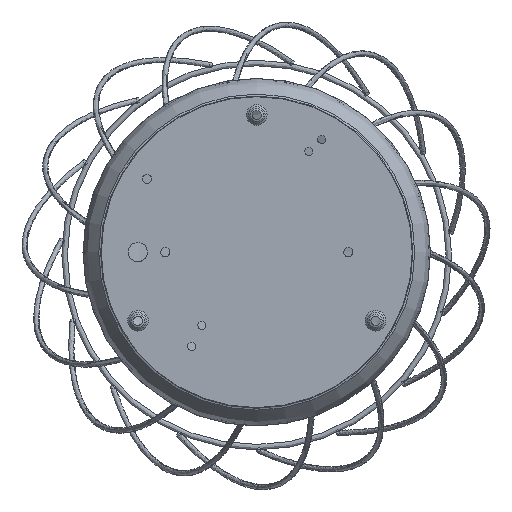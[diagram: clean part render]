
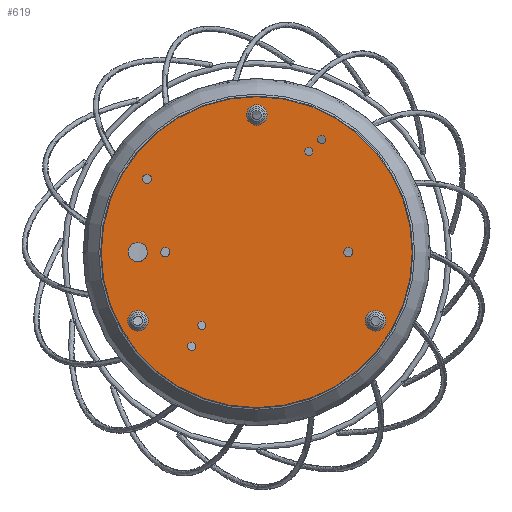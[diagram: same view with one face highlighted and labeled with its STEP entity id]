
A CAD part, top view. The second image highlights one B-rep face of the part: STEP entity #619.
In plain terms, the highlighted planar face has unit normal (0, 0, 1).
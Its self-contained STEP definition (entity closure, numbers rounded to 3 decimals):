
#619 = ADVANCED_FACE( '', ( #1092, #1093, #1094, #1095, #1096, #1097, #1098, #1099, #1100, #1101, #1102, #1103 ), #1104, .F. );
#1092 = FACE_BOUND( '', #1534, .T. );
#1093 = FACE_BOUND( '', #1535, .T. );
#1094 = FACE_BOUND( '', #1536, .T. );
#1095 = FACE_BOUND( '', #1537, .T. );
#1096 = FACE_BOUND( '', #1538, .T. );
#1097 = FACE_BOUND( '', #1539, .T. );
#1098 = FACE_BOUND( '', #1540, .T. );
#1099 = FACE_BOUND( '', #1541, .T. );
#1100 = FACE_BOUND( '', #1542, .T. );
#1101 = FACE_BOUND( '', #1543, .T. );
#1102 = FACE_OUTER_BOUND( '', #1544, .T. );
#1103 = FACE_BOUND( '', #1545, .T. );
#1104 = PLANE( '', #1546 );
#1534 = EDGE_LOOP( '', ( #3364 ) );
#1535 = EDGE_LOOP( '', ( #3365 ) );
#1536 = EDGE_LOOP( '', ( #3366 ) );
#1537 = EDGE_LOOP( '', ( #3367 ) );
#1538 = EDGE_LOOP( '', ( #3368 ) );
#1539 = EDGE_LOOP( '', ( #3369 ) );
#1540 = EDGE_LOOP( '', ( #3370 ) );
#1541 = EDGE_LOOP( '', ( #3371 ) );
#1542 = EDGE_LOOP( '', ( #3372 ) );
#1543 = EDGE_LOOP( '', ( #3373 ) );
#1544 = EDGE_LOOP( '', ( #3374 ) );
#1545 = EDGE_LOOP( '', ( #3375 ) );
#1546 = AXIS2_PLACEMENT_3D( '', #3376, #3377, #3378 );
#3364 = ORIENTED_EDGE( '', *, *, #3684, .T. );
#3365 = ORIENTED_EDGE( '', *, *, #3743, .T. );
#3366 = ORIENTED_EDGE( '', *, *, #3744, .F. );
#3367 = ORIENTED_EDGE( '', *, *, #3649, .T. );
#3368 = ORIENTED_EDGE( '', *, *, #3745, .T. );
#3369 = ORIENTED_EDGE( '', *, *, #3746, .T. );
#3370 = ORIENTED_EDGE( '', *, *, #3706, .T. );
#3371 = ORIENTED_EDGE( '', *, *, #3747, .T. );
#3372 = ORIENTED_EDGE( '', *, *, #3748, .F. );
#3373 = ORIENTED_EDGE( '', *, *, #3682, .F. );
#3374 = ORIENTED_EDGE( '', *, *, #3749, .F. );
#3375 = ORIENTED_EDGE( '', *, *, #3610, .F. );
#3376 = CARTESIAN_POINT( '', ( -85., 0., 27. ) );
#3377 = DIRECTION( '', ( 0., 0., -1. ) );
#3378 = DIRECTION( '', ( -1., 0., 0. ) );
#3610 = EDGE_CURVE( '', #3809, #3809, #3810, .F. );
#3649 = EDGE_CURVE( '', #3872, #3872, #3873, .T. );
#3682 = EDGE_CURVE( '', #3923, #3923, #3924, .F. );
#3684 = EDGE_CURVE( '', #3926, #3926, #3927, .T. );
#3706 = EDGE_CURVE( '', #3963, #3963, #3964, .T. );
#3743 = EDGE_CURVE( '', #4016, #4016, #4017, .T. );
#3744 = EDGE_CURVE( '', #4018, #4018, #4019, .T. );
#3745 = EDGE_CURVE( '', #4020, #4020, #4021, .T. );
#3746 = EDGE_CURVE( '', #4022, #4022, #4023, .T. );
#3747 = EDGE_CURVE( '', #4024, #4024, #4025, .T. );
#3748 = EDGE_CURVE( '', #4026, #4026, #4027, .F. );
#3749 = EDGE_CURVE( '', #4028, #4028, #4029, .T. );
#3809 = VERTEX_POINT( '', #4099 );
#3810 = CIRCLE( '', #4100, 5.621 );
#3872 = VERTEX_POINT( '', #4162 );
#3873 = CIRCLE( '', #4163, 2.5 );
#3923 = VERTEX_POINT( '', #4213 );
#3924 = CIRCLE( '', #4214, 5.621 );
#3926 = VERTEX_POINT( '', #4216 );
#3927 = CIRCLE( '', #4217, 2.5 );
#3963 = VERTEX_POINT( '', #4253 );
#3964 = CIRCLE( '', #4254, 2.25 );
#4016 = VERTEX_POINT( '', #4363 );
#4017 = CIRCLE( '', #4364, 5.25 );
#4018 = VERTEX_POINT( '', #4365 );
#4019 = CIRCLE( '', #4366, 2.5 );
#4020 = VERTEX_POINT( '', #4367 );
#4021 = CIRCLE( '', #4368, 2.25 );
#4022 = VERTEX_POINT( '', #4369 );
#4023 = CIRCLE( '', #4370, 2.25 );
#4024 = VERTEX_POINT( '', #4371 );
#4025 = CIRCLE( '', #4372, 2.25 );
#4026 = VERTEX_POINT( '', #4373 );
#4027 = CIRCLE( '', #4374, 5.621 );
#4028 = VERTEX_POINT( '', #4375 );
#4029 = CIRCLE( '', #4376, 85. );
#4099 = CARTESIAN_POINT( '', ( -80.621, 0., 27. ) );
#4100 = AXIS2_PLACEMENT_3D( '', #4447, #4448, #4449 );
#4162 = CARTESIAN_POINT( '', ( -2.5, 50., 27. ) );
#4163 = AXIS2_PLACEMENT_3D( '', #4519, #4520, #4521 );
#4213 = CARTESIAN_POINT( '', ( 40.311, -69.82, 27. ) );
#4214 = AXIS2_PLACEMENT_3D( '', #4573, #4574, #4575 );
#4216 = CARTESIAN_POINT( '', ( -42.5, -60., 27. ) );
#4217 = AXIS2_PLACEMENT_3D( '', #4576, #4577, #4578 );
#4253 = CARTESIAN_POINT( '', ( -63.75, 35.5, 27. ) );
#4254 = AXIS2_PLACEMENT_3D( '', #4624, #4625, #4626 );
#4363 = CARTESIAN_POINT( '', ( -5.25, -65., 27. ) );
#4364 = AXIS2_PLACEMENT_3D( '', #4675, #4676, #4677 );
#4365 = CARTESIAN_POINT( '', ( -2.5, -50., 27. ) );
#4366 = AXIS2_PLACEMENT_3D( '', #4678, #4679, #4680 );
#4367 = CARTESIAN_POINT( '', ( 37.75, -30., 27. ) );
#4368 = AXIS2_PLACEMENT_3D( '', #4681, #4682, #4683 );
#4369 = CARTESIAN_POINT( '', ( -57.25, 28.5, 27. ) );
#4370 = AXIS2_PLACEMENT_3D( '', #4684, #4685, #4686 );
#4371 = CARTESIAN_POINT( '', ( 49.25, -35.5, 27. ) );
#4372 = AXIS2_PLACEMENT_3D( '', #4687, #4688, #4689 );
#4373 = CARTESIAN_POINT( '', ( 40.311, 69.82, 27. ) );
#4374 = AXIS2_PLACEMENT_3D( '', #4690, #4691, #4692 );
#4375 = CARTESIAN_POINT( '', ( -85., 0., 27. ) );
#4376 = AXIS2_PLACEMENT_3D( '', #4693, #4694, #4695 );
#4447 = CARTESIAN_POINT( '', ( -75., 0., 27. ) );
#4448 = DIRECTION( '', ( 0., 0., -1. ) );
#4449 = DIRECTION( '', ( -1., 0., 0. ) );
#4519 = CARTESIAN_POINT( '', ( 0., 50., 27. ) );
#4520 = DIRECTION( '', ( 0., 0., -1. ) );
#4521 = DIRECTION( '', ( -1., 0., 0. ) );
#4573 = CARTESIAN_POINT( '', ( 37.5, -64.952, 27. ) );
#4574 = DIRECTION( '', ( 0., 0., -1. ) );
#4575 = DIRECTION( '', ( 0.5, -0.866, 0. ) );
#4576 = CARTESIAN_POINT( '', ( -40., -60., 27. ) );
#4577 = DIRECTION( '', ( 0., 0., -1. ) );
#4578 = DIRECTION( '', ( -1., 0., 0. ) );
#4624 = CARTESIAN_POINT( '', ( -61.5, 35.5, 27. ) );
#4625 = DIRECTION( '', ( 0., 0., -1. ) );
#4626 = DIRECTION( '', ( -1., 0., 0. ) );
#4675 = CARTESIAN_POINT( '', ( 0., -65., 27. ) );
#4676 = DIRECTION( '', ( 0., 0., -1. ) );
#4677 = DIRECTION( '', ( -1., 0., 0. ) );
#4678 = CARTESIAN_POINT( '', ( 0., -50., 27. ) );
#4679 = DIRECTION( '', ( 0., 0., 1. ) );
#4680 = DIRECTION( '', ( -1., 0., 0. ) );
#4681 = CARTESIAN_POINT( '', ( 40., -30., 27. ) );
#4682 = DIRECTION( '', ( 0., 0., -1. ) );
#4683 = DIRECTION( '', ( -1., 0., 0. ) );
#4684 = CARTESIAN_POINT( '', ( -55., 28.5, 27. ) );
#4685 = DIRECTION( '', ( 0., 0., -1. ) );
#4686 = DIRECTION( '', ( -1., 0., 0. ) );
#4687 = CARTESIAN_POINT( '', ( 51.5, -35.5, 27. ) );
#4688 = DIRECTION( '', ( 0., 0., -1. ) );
#4689 = DIRECTION( '', ( -1., 0., 0. ) );
#4690 = CARTESIAN_POINT( '', ( 37.5, 64.952, 27. ) );
#4691 = DIRECTION( '', ( 0., 0., -1. ) );
#4692 = DIRECTION( '', ( 0.5, 0.866, 0. ) );
#4693 = CARTESIAN_POINT( '', ( 0., 0., 27. ) );
#4694 = DIRECTION( '', ( 0., 0., -1. ) );
#4695 = DIRECTION( '', ( -1., 0., 0. ) );
